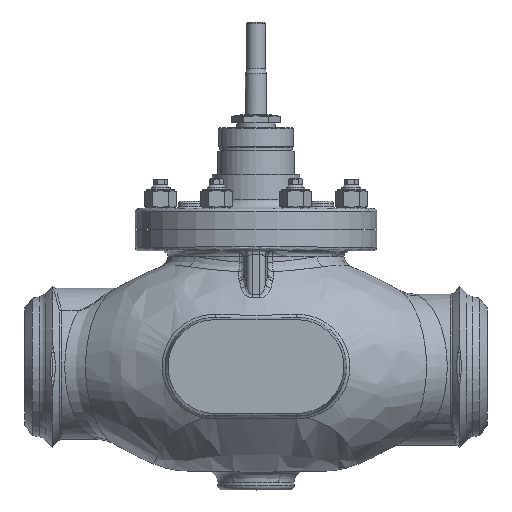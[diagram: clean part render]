
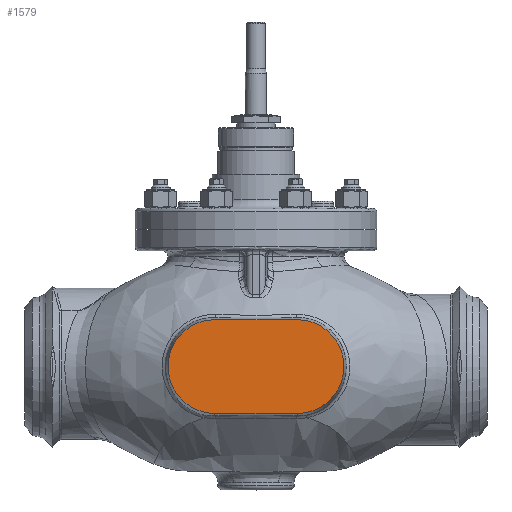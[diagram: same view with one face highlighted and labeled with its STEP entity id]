
A CAD part, top view. The second image highlights one B-rep face of the part: STEP entity #1579.
In plain terms, the highlighted planar face has unit normal (0, 0, 1).
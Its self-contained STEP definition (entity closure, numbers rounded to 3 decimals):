
#135=PLANE('',#9270);
#822=LINE('',#15268,#1068);
#824=LINE('',#15314,#1070);
#1068=VECTOR('',#10451,1.);
#1070=VECTOR('',#10459,1.);
#1579=ADVANCED_FACE('',(#2232),#135,.F.);
#2232=FACE_OUTER_BOUND('',#2757,.T.);
#2757=EDGE_LOOP('',(#4365,#4366,#4367,#4368));
#4365=ORIENTED_EDGE('',*,*,#7601,.F.);
#4366=ORIENTED_EDGE('',*,*,#7610,.F.);
#4367=ORIENTED_EDGE('',*,*,#7607,.F.);
#4368=ORIENTED_EDGE('',*,*,#7604,.F.);
#6749=VERTEX_POINT('',#15220);
#6753=VERTEX_POINT('',#15257);
#6754=VERTEX_POINT('',#15261);
#6758=VERTEX_POINT('',#15305);
#7601=EDGE_CURVE('',#6753,#6749,#8720,.T.);
#7604=EDGE_CURVE('',#6749,#6754,#822,.T.);
#7607=EDGE_CURVE('',#6754,#6758,#8721,.T.);
#7610=EDGE_CURVE('',#6758,#6753,#824,.T.);
#8720=CIRCLE('',#9264,40.);
#8721=CIRCLE('',#9267,40.);
#9264=AXIS2_PLACEMENT_3D('',#15258,#10446,#10447);
#9267=AXIS2_PLACEMENT_3D('',#15304,#10454,#10455);
#9270=AXIS2_PLACEMENT_3D('',#15316,#10462,#10463);
#10446=DIRECTION('',(0.,0.,-1.));
#10447=DIRECTION('',(-1.,0.,0.));
#10451=DIRECTION('',(-1.,0.,0.));
#10454=DIRECTION('',(0.,0.,-1.));
#10455=DIRECTION('',(-1.,0.,0.));
#10459=DIRECTION('',(1.,0.,0.));
#10462=DIRECTION('',(0.,0.,-1.));
#10463=DIRECTION('',(-1.,0.,0.));
#15220=CARTESIAN_POINT('',(35.,-40.,120.));
#15257=CARTESIAN_POINT('',(35.,40.,120.));
#15258=CARTESIAN_POINT('',(35.,0.,120.));
#15261=CARTESIAN_POINT('',(-35.,-40.,120.));
#15268=CARTESIAN_POINT('',(35.,-40.,120.));
#15304=CARTESIAN_POINT('',(-35.,0.,120.));
#15305=CARTESIAN_POINT('',(-35.,40.,120.));
#15314=CARTESIAN_POINT('',(35.,40.,120.));
#15316=CARTESIAN_POINT('',(35.,0.,120.));
